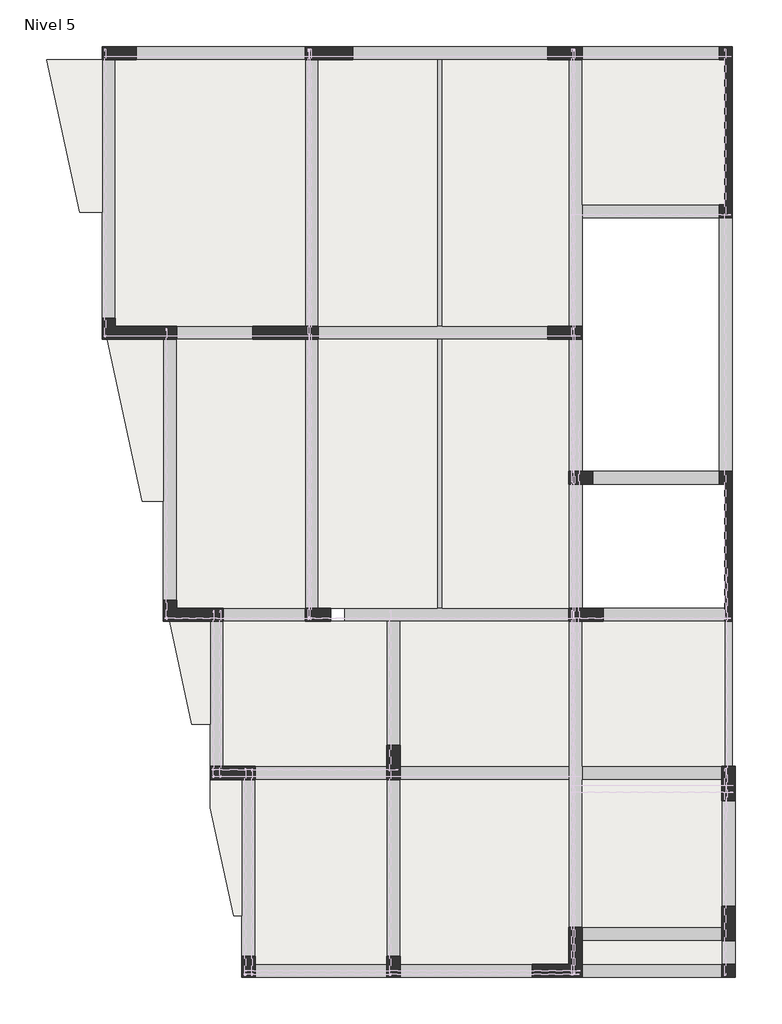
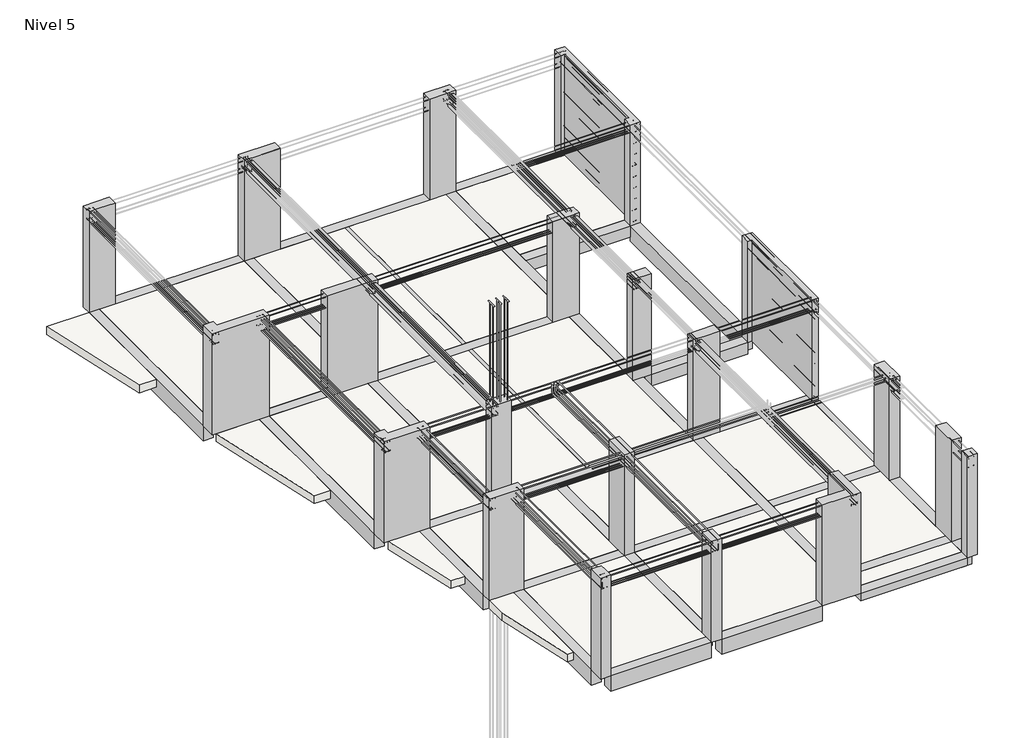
# One storey, part 1 of 4: 35 beams, 20 columns, 18 slabs.
"""IFC4 building model written with IfcOpenShell, lengths in millimetres."""

from ifc_helpers import new_model, si_unit, frame, origin, place, context, project, spatial, polyline, outline, extrude, faceted_brep, transform, mapped, element, save
from components import viga_rectangular_evg_rect_10x20cm_33a10ffb, viga_rectangular_evg_rect_10x20cm_1bd2aa7d, viga_rectangular_evg_rect_15x40_cm_c549a8b6, viga_rectangular_evg_rect_25x20_cm_6cef108b, viga_rectangular_evg_rect_25x20_cm_76eb4939, viga_rectangular_evg_rect_25x20_cm_9c3e1b78, viga_rectangular_evg_rect_25x30cm_620da6b6, viga_rectangular_evg_rect_25x30cm_a66d10a6, viga_rectangular_evg_rect_25x40_cm_2bdd148a, viga_rectangular_evg_rect_25x40_cm_41408228, viga_rectangular_evg_rect_25x40_cm_6a1f8600, viga_rectangular_evg_rect_25x40_cm_fbb3c78d, viga_rectangular_evg_rect_25x40_cm_da4bb42e, viga_rectangular_evg_rect_25x40_cm_90d5ee12, viga_rectangular_evg_rect_25x40_cm_d11aaed7, viga_rectangular_evg_rect_25x40_cm_ec8e30a6, viga_rectangular_evg_rect_25x40_cm_c621c72f, viga_rectangular_evg_rect_25x40_cm_b76ac871, viga_rectangular_evg_rect_25x40_cm_42ceb3dc, viga_rectangular_evg_rect_25x40_cm_400539a3, viga_rectangular_evg_rect_25x40_cm_b1d61e0d, viga_rectangular_evg_rect_25x40_cm_961303b6, viga_rectangular_evg_rect_25x40_cm_5bf8f6ca, viga_rectangular_evg_rect_25x40_cm_e96bc27a, viga_rectangular_evg_rect_25x40_cm_8e48b35e, viga_rectangular_evg_rect_25x40_cm_19945e5e, viga_rectangular_evg_rect_25x40_cm_a6a9dfc2, viga_rectangular_evg_rect_25x40_cm_1dd9ab3c, viga_rectangular_evg_rect_25x40_cm_08c52653, viga_rectangular_evg_rect_25x40_cm_b007f258, viga_rectangular_evg_rect_25x40_cm_85c841cc, column_d2b6d631, column_650a935f, column_6116fde4, column_4630523e, columna_estructural_rectangular_eco_rect_25x25_cm_e1e9a058, columna_estructural_u_eco_u_25x325x25x15_4ea3d3db

model = new_model("IFC4")

# Units and contexts
model_context = context("Model", 3, world=origin())
ifc_project = project(units=[si_unit("LENGTHUNIT", "METRE", prefix="MILLI")], contexts=[model_context])

# Site, building, storey
site = spatial("IfcSite", under=ifc_project)
building = spatial("IfcBuilding", under=site)
storey = spatial("IfcBuildingStorey", under=building, Name="Nivel 5", Elevation=10700.0)

# Beams
placement = place(None, origin())
viga_rectangular_evg_rect_10x20cm_shape = viga_rectangular_evg_rect_10x20cm_33a10ffb(model_context)
element("IfcBeam", 1, ObjectType="Viga Rectangular : EVG_Rect 10x20cm", at=placement, inside=storey, context=model_context, shape_type="MappedRepresentation", body=[
    mapped(viga_rectangular_evg_rect_10x20cm_shape, transform((3750.0, 9550.0, 10700.0), x_axis=(0.0, 1.0, 0.0), y_axis=(-1.0, 0.0, 0.0), z_axis=(0.0, 0.0, 1.0))),
])
viga_rectangular_evg_rect_10x20cm_2_shape = viga_rectangular_evg_rect_10x20cm_1bd2aa7d(model_context)
element("IfcBeam", 2, ObjectType="Viga Rectangular : EVG_Rect 10x20cm", at=placement, inside=storey, context=model_context, shape_type="MappedRepresentation", body=[
    mapped(viga_rectangular_evg_rect_10x20cm_2_shape, transform((3750.0, 14875.0, 10700.0), x_axis=(0.0, 1.0, 0.0), y_axis=(-1.0, 0.0, 0.0), z_axis=(0.0, 0.0, 1.0))),
])
viga_rectangular_evg_rect_15x40_cm_shape = viga_rectangular_evg_rect_15x40_cm_c549a8b6(model_context)
element("IfcBeam", 3, ObjectType="Viga Rectangular : EVG_Rect 15x40 cm", at=placement, inside=storey, context=model_context, shape_type="MappedRepresentation", body=[
    mapped(viga_rectangular_evg_rect_15x40_cm_shape, transform((9225.0, 5375.0, 10700.0), x_axis=(0.0, -1.0, 0.0), y_axis=(1.0, 0.0, 0.0), z_axis=(0.0, 0.0, 1.0))),
])
viga_rectangular_evg_rect_25x20_cm_shape = viga_rectangular_evg_rect_25x20_cm_6cef108b(model_context)
element("IfcBeam", 4, ObjectType="Viga Rectangular : EVG_Rect 25x20 cm", at=placement, inside=storey, context=model_context, shape_type="MappedRepresentation", body=[
    mapped(viga_rectangular_evg_rect_25x20_cm_shape, transform((6325.0, 8175.0, 10700.0), x_axis=(0.0, 1.0, 0.0), y_axis=(-1.0, 0.0, 0.0), z_axis=(0.0, 0.0, 1.0))),
])
viga_rectangular_evg_rect_25x20_cm_2_shape = viga_rectangular_evg_rect_25x20_cm_76eb4939(model_context)
element("IfcBeam", 5, ObjectType="Viga Rectangular : EVG_Rect 25x20 cm", at=placement, inside=storey, context=model_context, shape_type="MappedRepresentation", body=[
    mapped(viga_rectangular_evg_rect_25x20_cm_2_shape, transform((4600.0, 3875.0, 10700.0), x_axis=(1.0, 0.0, 0.0), y_axis=(0.0, 1.0, 0.0), z_axis=(0.0, 0.0, 1.0))),
])
viga_rectangular_evg_rect_25x20_cm_3_shape = viga_rectangular_evg_rect_25x20_cm_9c3e1b78(model_context)
element("IfcBeam", 6, ObjectType="Viga Rectangular : EVG_Rect 25x20 cm", at=placement, inside=storey, context=model_context, shape_type="MappedRepresentation", body=[
    mapped(viga_rectangular_evg_rect_25x20_cm_3_shape, transform((7775.0, 3875.0, 10700.0), x_axis=(1.0, 0.0, 0.0), y_axis=(0.0, 1.0, 0.0), z_axis=(0.0, 0.0, 1.0))),
])
element("IfcBeam", 7, ObjectType="Viga Rectangular : EVG_Rect 25x20 cm", at=placement, inside=storey, context=model_context, shape_type="MappedRepresentation", body=[
    mapped(viga_rectangular_evg_rect_25x20_cm_3_shape, transform((7775.0, 825.0, 10700.0), x_axis=(-1.0, 0.0, 0.0), y_axis=(0.0, -1.0, 0.0), z_axis=(0.0, 0.0, 1.0))),
])
element("IfcBeam", 8, ObjectType="Viga Rectangular : EVG_Rect 25x20 cm", at=placement, inside=storey, context=model_context, shape_type="MappedRepresentation", body=[
    mapped(viga_rectangular_evg_rect_25x20_cm_3_shape, transform((7775.0, 125.0, 10700.0), x_axis=(-1.0, 0.0, 0.0), y_axis=(0.0, -1.0, 0.0), z_axis=(0.0, 0.0, 1.0))),
])
viga_rectangular_evg_rect_25x30cm_shape = viga_rectangular_evg_rect_25x30cm_620da6b6(model_context)
element("IfcBeam", 9, ObjectType="Viga Rectangular : EVG_Rect 25x30cm", at=placement, inside=storey, context=model_context, shape_type="MappedRepresentation", body=[
    mapped(viga_rectangular_evg_rect_25x30cm_shape, transform((7800.0, 9475.0, 10700.0), x_axis=(1.0, 0.0, 0.0), y_axis=(0.0, 1.0, 0.0), z_axis=(0.0, 0.0, 1.0))),
])
viga_rectangular_evg_rect_25x30cm_2_shape = viga_rectangular_evg_rect_25x30cm_a66d10a6(model_context)
element("IfcBeam", 10, ObjectType="Viga Rectangular : EVG_Rect 25x30cm", at=placement, inside=storey, context=model_context, shape_type="MappedRepresentation", body=[
    mapped(viga_rectangular_evg_rect_25x30cm_2_shape, transform((7750.0, 14525.0, 10700.0), x_axis=(-1.0, 0.0, 0.0), y_axis=(0.0, -1.0, 0.0), z_axis=(0.0, 0.0, 1.0))),
])
viga_rectangular_evg_rect_25x40_cm_shape = viga_rectangular_evg_rect_25x40_cm_2bdd148a(model_context)
element("IfcBeam", 11, ObjectType="Viga Rectangular : EVG_Rect 25x40 cm", at=placement, inside=storey, context=model_context, shape_type="MappedRepresentation", body=[
    mapped(viga_rectangular_evg_rect_25x40_cm_shape, transform((6325.0, 3675.0, 10700.0), x_axis=(0.0, 1.0, 0.0), y_axis=(-1.0, 0.0, 0.0), z_axis=(0.0, 0.0, 1.0))),
])
viga_rectangular_evg_rect_25x40_cm_2_shape = viga_rectangular_evg_rect_25x40_cm_41408228(model_context)
element("IfcBeam", 12, ObjectType="Viga Rectangular : EVG_Rect 25x40 cm", at=placement, inside=storey, context=model_context, shape_type="MappedRepresentation", body=[
    mapped(viga_rectangular_evg_rect_25x40_cm_2_shape, transform((3425.0, 12225.0, 10700.0), x_axis=(-1.0, 0.0, 0.0), y_axis=(0.0, -1.0, 0.0), z_axis=(0.0, 0.0, 1.0))),
])
viga_rectangular_evg_rect_25x40_cm_3_shape = viga_rectangular_evg_rect_25x40_cm_6a1f8600(model_context)
element("IfcBeam", 13, ObjectType="Viga Rectangular : EVG_Rect 25x40 cm", at=placement, inside=storey, context=model_context, shape_type="MappedRepresentation", body=[
    mapped(viga_rectangular_evg_rect_25x40_cm_3_shape, transform((-560.0, 12225.0, 10700.0), x_axis=(1.0, 0.0, 0.0), y_axis=(0.0, 1.0, 0.0), z_axis=(0.0, 0.0, 1.0))),
])
viga_rectangular_evg_rect_25x40_cm_4_shape = viga_rectangular_evg_rect_25x40_cm_fbb3c78d(model_context)
element("IfcBeam", 14, ObjectType="Viga Rectangular : EVG_Rect 25x40 cm", at=placement, inside=storey, context=model_context, shape_type="MappedRepresentation", body=[
    mapped(viga_rectangular_evg_rect_25x40_cm_4_shape, transform((-337.5, 17525.0, 10700.0), x_axis=(1.0, 0.0, 0.0), y_axis=(0.0, 1.0, 0.0), z_axis=(0.0, 0.0, 1.0))),
])
viga_rectangular_evg_rect_25x40_cm_5_shape = viga_rectangular_evg_rect_25x40_cm_da4bb42e(model_context)
element("IfcBeam", 15, ObjectType="Viga Rectangular : EVG_Rect 25x40 cm", at=placement, inside=storey, context=model_context, shape_type="MappedRepresentation", body=[
    mapped(viga_rectangular_evg_rect_25x40_cm_5_shape, transform((3887.5, 17525.0, 10700.0), x_axis=(1.0, 0.0, 0.0), y_axis=(0.0, 1.0, 0.0), z_axis=(0.0, 0.0, 1.0))),
])
viga_rectangular_evg_rect_25x40_cm_6_shape = viga_rectangular_evg_rect_25x40_cm_90d5ee12(model_context)
element("IfcBeam", 16, ObjectType="Viga Rectangular : EVG_Rect 25x40 cm", at=placement, inside=storey, context=model_context, shape_type="MappedRepresentation", body=[
    mapped(viga_rectangular_evg_rect_25x40_cm_6_shape, transform((1350.0, 3875.0, 10700.0), x_axis=(1.0, 0.0, 0.0), y_axis=(0.0, 1.0, 0.0), z_axis=(0.0, 0.0, 1.0))),
])
viga_rectangular_evg_rect_25x40_cm_7_shape = viga_rectangular_evg_rect_25x40_cm_d11aaed7(model_context)
element("IfcBeam", 17, ObjectType="Viga Rectangular : EVG_Rect 25x40 cm", at=placement, inside=storey, context=model_context, shape_type="MappedRepresentation", body=[
    mapped(viga_rectangular_evg_rect_25x40_cm_7_shape, transform((1500.0, 125.0, 10700.0), x_axis=(-1.0, 0.0, 0.0), y_axis=(0.0, -1.0, 0.0), z_axis=(0.0, 0.0, 1.0))),
])
element("IfcBeam", 18, ObjectType="Viga Rectangular : EVG_Rect 25x40 cm", at=placement, inside=storey, context=model_context, shape_type="MappedRepresentation", body=[
    mapped(viga_rectangular_evg_rect_25x40_cm_7_shape, transform((6325.0, 10850.0, 10700.0), x_axis=(0.0, 1.0, 0.0), y_axis=(-1.0, 0.0, 0.0), z_axis=(0.0, 0.0, 1.0))),
])
viga_rectangular_evg_rect_25x40_cm_8_shape = viga_rectangular_evg_rect_25x40_cm_ec8e30a6(model_context)
element("IfcBeam", 19, ObjectType="Viga Rectangular : EVG_Rect 25x40 cm", at=placement, inside=storey, context=model_context, shape_type="MappedRepresentation", body=[
    mapped(viga_rectangular_evg_rect_25x40_cm_8_shape, transform((4600.0, 125.0, 10700.0), x_axis=(1.0, 0.0, 0.0), y_axis=(0.0, 1.0, 0.0), z_axis=(0.0, 0.0, 1.0))),
])
viga_rectangular_evg_rect_25x40_cm_9_shape = viga_rectangular_evg_rect_25x40_cm_c621c72f(model_context)
element("IfcBeam", 20, ObjectType="Viga Rectangular : EVG_Rect 25x40 cm", at=placement, inside=storey, context=model_context, shape_type="MappedRepresentation", body=[
    mapped(viga_rectangular_evg_rect_25x40_cm_9_shape, transform((125.0, 2037.5, 10700.0), x_axis=(0.0, 1.0, 0.0), y_axis=(-1.0, 0.0, 0.0), z_axis=(0.0, 0.0, 1.0))),
])
viga_rectangular_evg_rect_25x40_cm_10_shape = viga_rectangular_evg_rect_25x40_cm_b76ac871(model_context)
element("IfcBeam", 21, ObjectType="Viga Rectangular : EVG_Rect 25x40 cm", at=placement, inside=storey, context=model_context, shape_type="MappedRepresentation", body=[
    mapped(viga_rectangular_evg_rect_25x40_cm_10_shape, transform((2875.0, 2137.5, 10700.0), x_axis=(0.0, 1.0, 0.0), y_axis=(-1.0, 0.0, 0.0), z_axis=(0.0, 0.0, 1.0))),
])
viga_rectangular_evg_rect_25x40_cm_11_shape = viga_rectangular_evg_rect_25x40_cm_42ceb3dc(model_context)
element("IfcBeam", 22, ObjectType="Viga Rectangular : EVG_Rect 25x40 cm", at=placement, inside=storey, context=model_context, shape_type="MappedRepresentation", body=[
    mapped(viga_rectangular_evg_rect_25x40_cm_11_shape, transform((-475.0, 5375.0, 10700.0), x_axis=(0.0, 1.0, 0.0), y_axis=(-1.0, 0.0, 0.0), z_axis=(0.0, 0.0, 1.0))),
])
viga_rectangular_evg_rect_25x40_cm_12_shape = viga_rectangular_evg_rect_25x40_cm_400539a3(model_context)
element("IfcBeam", 23, ObjectType="Viga Rectangular : EVG_Rect 25x40 cm", at=placement, inside=storey, context=model_context, shape_type="MappedRepresentation", body=[
    mapped(viga_rectangular_evg_rect_25x40_cm_12_shape, transform((9225.0, 575.0, 10700.0), x_axis=(0.0, 1.0, 0.0), y_axis=(-1.0, 0.0, 0.0), z_axis=(0.0, 0.0, 1.0))),
])
viga_rectangular_evg_rect_25x40_cm_13_shape = viga_rectangular_evg_rect_25x40_cm_b1d61e0d(model_context)
element("IfcBeam", 24, ObjectType="Viga Rectangular : EVG_Rect 25x40 cm", at=placement, inside=storey, context=model_context, shape_type="MappedRepresentation", body=[
    mapped(viga_rectangular_evg_rect_25x40_cm_13_shape, transform((9225.0, 2350.0, 10700.0), x_axis=(0.0, 1.0, 0.0), y_axis=(-1.0, 0.0, 0.0), z_axis=(0.0, 0.0, 1.0))),
])
viga_rectangular_evg_rect_25x40_cm_14_shape = viga_rectangular_evg_rect_25x40_cm_961303b6(model_context)
element("IfcBeam", 25, ObjectType="Viga Rectangular : EVG_Rect 25x40 cm", at=placement, inside=storey, context=model_context, shape_type="MappedRepresentation", body=[
    mapped(viga_rectangular_evg_rect_25x40_cm_14_shape, transform((7875.0, 6875.0, 10700.0), x_axis=(1.0, 0.0, 0.0), y_axis=(0.0, 1.0, 0.0), z_axis=(0.0, 0.0, 1.0))),
])
viga_rectangular_evg_rect_25x40_cm_15_shape = viga_rectangular_evg_rect_25x40_cm_5bf8f6ca(model_context)
element("IfcBeam", 26, ObjectType="Viga Rectangular : EVG_Rect 25x40 cm", at=placement, inside=storey, context=model_context, shape_type="MappedRepresentation", body=[
    mapped(viga_rectangular_evg_rect_25x40_cm_15_shape, transform((-1365.0, 9587.5, 10700.0), x_axis=(0.0, 1.0, 0.0), y_axis=(-1.0, 0.0, 0.0), z_axis=(0.0, 0.0, 1.0))),
])
viga_rectangular_evg_rect_25x40_cm_16_shape = viga_rectangular_evg_rect_25x40_cm_e96bc27a(model_context)
element("IfcBeam", 27, ObjectType="Viga Rectangular : EVG_Rect 25x40 cm", at=placement, inside=storey, context=model_context, shape_type="MappedRepresentation", body=[
    mapped(viga_rectangular_evg_rect_25x40_cm_16_shape, transform((9175.0, 11985.0, 10700.0), x_axis=(0.0, 1.0, 0.0), y_axis=(-1.0, 0.0, 0.0), z_axis=(0.0, 0.0, 1.0))),
])
viga_rectangular_evg_rect_25x40_cm_17_shape = viga_rectangular_evg_rect_25x40_cm_8e48b35e(model_context)
element("IfcBeam", 28, ObjectType="Viga Rectangular : EVG_Rect 25x40 cm", at=placement, inside=storey, context=model_context, shape_type="MappedRepresentation", body=[
    mapped(viga_rectangular_evg_rect_25x40_cm_17_shape, transform((6325.0, 14875.0, 10700.0), x_axis=(0.0, 1.0, 0.0), y_axis=(-1.0, 0.0, 0.0), z_axis=(0.0, 0.0, 1.0))),
])
element("IfcBeam", 29, ObjectType="Viga Rectangular : EVG_Rect 25x40 cm", at=placement, inside=storey, context=model_context, shape_type="MappedRepresentation", body=[
    mapped(viga_rectangular_evg_rect_25x40_cm_17_shape, transform((1325.0, 14875.0, 10700.0), x_axis=(0.0, 1.0, 0.0), y_axis=(-1.0, 0.0, 0.0), z_axis=(0.0, 0.0, 1.0))),
])
viga_rectangular_evg_rect_25x40_cm_18_shape = viga_rectangular_evg_rect_25x40_cm_19945e5e(model_context)
element("IfcBeam", 30, ObjectType="Viga Rectangular : EVG_Rect 25x40 cm", at=placement, inside=storey, context=model_context, shape_type="MappedRepresentation", body=[
    mapped(viga_rectangular_evg_rect_25x40_cm_18_shape, transform((-2525.0, 14912.5, 10700.0), x_axis=(0.0, 1.0, 0.0), y_axis=(-1.0, 0.0, 0.0), z_axis=(0.0, 0.0, 1.0))),
])
viga_rectangular_evg_rect_25x40_cm_19_shape = viga_rectangular_evg_rect_25x40_cm_a6a9dfc2(model_context)
element("IfcBeam", 31, ObjectType="Viga Rectangular : EVG_Rect 25x40 cm", at=placement, inside=storey, context=model_context, shape_type="MappedRepresentation", body=[
    mapped(viga_rectangular_evg_rect_25x40_cm_19_shape, transform((327.5, 6875.0, 10700.0), x_axis=(1.0, 0.0, 0.0), y_axis=(0.0, 1.0, 0.0), z_axis=(0.0, 0.0, 1.0))),
])
viga_rectangular_evg_rect_25x40_cm_20_shape = viga_rectangular_evg_rect_25x40_cm_1dd9ab3c(model_context)
element("IfcBeam", 32, ObjectType="Viga Rectangular : EVG_Rect 25x40 cm", at=placement, inside=storey, context=model_context, shape_type="MappedRepresentation", body=[
    mapped(viga_rectangular_evg_rect_25x40_cm_20_shape, transform((4050.0, 6875.0, 10700.0), x_axis=(-1.0, 0.0, 0.0), y_axis=(0.0, -1.0, 0.0), z_axis=(0.0, 0.0, 1.0))),
])
viga_rectangular_evg_rect_25x40_cm_21_shape = viga_rectangular_evg_rect_25x40_cm_08c52653(model_context)
element("IfcBeam", 33, ObjectType="Viga Rectangular : EVG_Rect 25x40 cm", at=placement, inside=storey, context=model_context, shape_type="MappedRepresentation", body=[
    mapped(viga_rectangular_evg_rect_25x40_cm_21_shape, transform((2875.0, 5502.6028662, 10700.0), x_axis=(0.0, 1.0, 0.0), y_axis=(-1.0, 0.0, 0.0), z_axis=(0.0, 0.0, 1.0))),
])
viga_rectangular_evg_rect_25x40_cm_22_shape = viga_rectangular_evg_rect_25x40_cm_b007f258(model_context)
element("IfcBeam", 34, ObjectType="Viga Rectangular : EVG_Rect 25x40 cm", at=placement, inside=storey, context=model_context, shape_type="MappedRepresentation", body=[
    mapped(viga_rectangular_evg_rect_25x40_cm_22_shape, transform((1325.0, 9541.2430955, 10700.0), x_axis=(0.0, 1.0, 0.0), y_axis=(-1.0, 0.0, 0.0), z_axis=(0.0, 0.0, 1.0))),
])
viga_rectangular_evg_rect_25x40_cm_23_shape = viga_rectangular_evg_rect_25x40_cm_85c841cc(model_context)
element("IfcBeam", 35, ObjectType="Viga Rectangular : EVG_Rect 25x40 cm", at=placement, inside=storey, context=model_context, shape_type="MappedRepresentation", body=[
    mapped(viga_rectangular_evg_rect_25x40_cm_23_shape, transform((7675.0, 17525.0, 10700.0), x_axis=(1.0, 0.0, 0.0), y_axis=(0.0, 1.0, 0.0), z_axis=(0.0, 0.0, 1.0))),
])

# Columns
column_shape = column_d2b6d631(model_context)
element("IfcColumn", 36, ObjectType="Columna Estructural Ele : ECO_Ele 40x141x25", at=placement, inside=storey, context=model_context, shape_type="MappedRepresentation", body=[
    mapped(column_shape, transform((-2525.0, 12225.0, 0.0), x_axis=(1.0, 0.0, 0.0), y_axis=(0.0, 1.0, 0.0), z_axis=(0.0, 0.0, 1.0))),
])
column_2_shape = column_650a935f(model_context)
element("IfcColumn", 37, ObjectType="Columna Estructural Ele : ECO_Ele 40x114x25", at=placement, inside=storey, context=model_context, shape_type="MappedRepresentation", body=[
    mapped(column_2_shape, transform((-1365.0, 6875.0, 0.0), x_axis=(1.0, 0.0, 0.0), y_axis=(0.0, 1.0, 0.0), z_axis=(0.0, 0.0, 1.0))),
])
column_3_shape = column_6116fde4(model_context)
element("IfcColumn", 38, ObjectType="Columna Estructural Ele : ECO_Ele 25x285x25", at=placement, inside=storey, context=model_context, shape_type="MappedRepresentation", body=[
    mapped(column_3_shape, transform((9225.0, 9475.0, 0.0), x_axis=(0.0, -1.0, 0.0), y_axis=(1.0, 0.0, 0.0), z_axis=(0.0, 0.0, 1.0))),
])
column_4_shape = column_4630523e(model_context)
element("IfcColumn", 39, ObjectType="Columna Estructural Ele : ECO_Ele 95x95x25", at=placement, inside=storey, context=model_context, shape_type="MappedRepresentation", body=[
    mapped(column_4_shape, transform((6325.0, 125.0, 0.0), x_axis=(0.0, 1.0, 0.0), y_axis=(-1.0, 0.0, 0.0), z_axis=(0.0, 0.0, 1.0))),
])
element("IfcColumn", 40, ObjectType="Columna Estructural Rectangular : ECO_Rect. 25x125 cm", at=placement, inside=storey, context=model_context, shape_type="Brep", body=[
    faceted_brep([(200.0, 12350.0, 10700.0), (1450.0, 12350.0, 10700.0), (1450.0, 12100.0, 10700.0), (200.0, 12100.0, 10700.0), (200.0, 12350.0, 13350.0), (1200.0, 12350.0, 13350.0), (1450.0, 12350.0, 13350.0), (1450.0, 12100.0, 13350.0), (1200.0, 12100.0, 13350.0), (200.0, 12100.0, 13350.0)], [[[0, 1, 2, 3]], [[4, 5, 6, 1, 0]], [[6, 7, 2, 1]], [[7, 8, 9, 3, 2]], [[9, 4, 0, 3]], [[4, 9, 8, 7, 6, 5]]]),
])
columna_estructural_rectangular_eco_rect_25x25_cm_shape = columna_estructural_rectangular_eco_rect_25x25_cm_e1e9a058(model_context)
element("IfcColumn", 41, ObjectType="Columna Estructural Rectangular : ECO_Rect. 25x25 cm", at=placement, inside=storey, context=model_context, shape_type="MappedRepresentation", body=[
    mapped(columna_estructural_rectangular_eco_rect_25x25_cm_shape, transform((9225.0, 125.0, 0.0), x_axis=(-1.0, 0.0, 0.0), y_axis=(0.0, -1.0, 0.0), z_axis=(0.0, 0.0, 1.0))),
])
element("IfcColumn", 42, ObjectType="Columna Estructural Rectangular : ECO_Rect. 25x40 cm", at=placement, inside=storey, context=model_context, shape_type="Brep", body=[
    faceted_brep([(0.0, 0.0, 10700.0), (0.0, 400.0, 10700.0), (250.0, 400.0, 10700.0), (250.0, 0.0, 10700.0), (0.0, 0.0, 13350.0), (0.0, 400.0, 13350.0), (250.0, 400.0, 13350.0), (250.0, 250.0, 13350.0), (250.0, 0.0, 13350.0)], [[[0, 1, 2, 3]], [[4, 5, 1, 0]], [[5, 6, 2, 1]], [[6, 7, 8, 3, 2]], [[8, 4, 0, 3]], [[4, 8, 7, 6, 5]]]),
])
element("IfcColumn", 43, ObjectType="Columna Estructural Rectangular : ECO_Rect. 25x40 cm", at=placement, inside=storey, context=model_context, shape_type="Brep", body=[
    faceted_brep([(2750.0, 0.0, 10700.0), (2750.0, 400.0, 10700.0), (3000.0, 400.0, 10700.0), (3000.0, 0.0, 10700.0), (2750.0, 0.0, 13350.0), (2750.0, 250.0, 13350.0), (2750.0, 400.0, 13350.0), (3000.0, 400.0, 13350.0), (3000.0, 250.0, 13350.0), (3000.0, 0.0, 13350.0)], [[[0, 1, 2, 3]], [[4, 5, 6, 1, 0]], [[6, 7, 2, 1]], [[7, 8, 9, 3, 2]], [[9, 4, 0, 3]], [[4, 9, 8, 7, 6, 5]]]),
])
element("IfcColumn", 44, ObjectType="Columna Estructural Rectangular : ECO_Rect. 25x45 cm", at=placement, inside=storey, context=model_context, shape_type="SweptSolid", body=[
    extrude(outline(polyline([(6200.0, 9600.0), (6650.0, 9600.0), (6650.0, 9350.0), (6200.0, 9350.0), (6200.0, 9600.0)])), frame((0.0, 0.0, 10700.0), z_axis=(0.0, 0.0, 1.0), x_axis=(1.0, 0.0, 0.0)), (0.0, 0.0, 1.0), 2650.0),
])
element("IfcColumn", 45, ObjectType="Columna Estructural Rectangular : ECO_Rect. 25x48 cm", at=placement, inside=storey, context=model_context, shape_type="Brep", body=[
    faceted_brep([(1200.0, 7000.0, 10700.0), (1680.0, 7000.0, 10700.0), (1680.0, 6750.0, 10700.0), (1200.0, 6750.0, 10700.0), (1200.0, 7000.0, 13350.0), (1450.0, 7000.0, 13350.0), (1680.0, 7000.0, 13350.0), (1680.0, 6750.0, 13350.0), (1200.0, 6750.0, 13350.0)], [[[0, 1, 2, 3]], [[4, 5, 6, 1, 0]], [[6, 7, 2, 1]], [[7, 8, 3, 2]], [[8, 4, 0, 3]], [[4, 8, 7, 6, 5]]]),
])
element("IfcColumn", 46, ObjectType="Columna Estructural Rectangular : ECO_Rect. 25x65 cm", at=placement, inside=storey, context=model_context, shape_type="Brep", body=[
    faceted_brep([(-2650.0, 17650.0, 10700.0), (-2000.0, 17650.0, 10700.0), (-2000.0, 17400.0, 10700.0), (-2650.0, 17400.0, 10700.0), (-2650.0, 17650.0, 13350.0), (-2000.0, 17650.0, 13350.0), (-2650.0, 17650.0, 13150.0), (-2000.0, 17400.0, 13350.0), (-2400.0, 17400.0, 13350.0), (-2650.0, 17400.0, 13350.0)], [[[0, 1, 2, 3]], [[4, 5, 1, 0, 6]], [[5, 7, 2, 1]], [[7, 8, 9, 3, 2]], [[9, 4, 6, 0, 3]], [[4, 9, 8, 7, 5]]]),
])
element("IfcColumn", 47, ObjectType="Columna Estructural Rectangular : ECO_Rect. 25x65 cm", at=placement, inside=storey, context=model_context, shape_type="Brep", body=[
    faceted_brep([(5800.0, 17650.0, 10700.0), (6450.0, 17650.0, 10700.0), (6450.0, 17400.0, 10700.0), (5800.0, 17400.0, 10700.0), (5800.0, 17650.0, 13350.0), (6450.0, 17650.0, 13350.0), (6450.0, 17400.0, 13350.0), (6200.0, 17400.0, 13350.0), (5800.0, 17400.0, 13350.0)], [[[0, 1, 2, 3]], [[4, 5, 1, 0]], [[5, 6, 2, 1]], [[6, 7, 8, 3, 2]], [[8, 4, 0, 3]], [[4, 8, 7, 6, 5]]]),
])
element("IfcColumn", 48, ObjectType="Columna Estructural Rectangular : ECO_Rect. 25x65 cm", at=placement, inside=storey, context=model_context, shape_type="Brep", body=[
    faceted_brep([(5800.0, 12350.0, 10700.0), (6450.0, 12350.0, 10700.0), (6450.0, 12100.0, 10700.0), (5800.0, 12100.0, 10700.0), (5800.0, 12350.0, 13350.0), (6200.0, 12350.0, 13350.0), (6450.0, 12350.0, 13350.0), (6450.0, 12100.0, 13350.0), (6200.0, 12100.0, 13350.0), (5800.0, 12100.0, 13350.0)], [[[0, 1, 2, 3]], [[4, 5, 6, 1, 0]], [[6, 7, 2, 1]], [[7, 8, 9, 3, 2]], [[9, 4, 0, 3]], [[4, 9, 8, 7, 6, 5]]]),
])
element("IfcColumn", 49, ObjectType="Columna Estructural Rectangular : ECO_Rect. 25x65 cm", at=placement, inside=storey, context=model_context, shape_type="Brep", body=[
    faceted_brep([(6200.0, 7000.0, 10700.0), (6850.0, 7000.0, 10700.0), (6850.0, 6750.0, 10700.0), (6200.0, 6750.0, 10700.0), (6200.0, 7000.0, 13350.0), (6850.0, 7000.0, 13350.0), (6850.0, 6750.0, 13350.0), (6450.0, 6750.0, 13350.0), (6200.0, 6750.0, 13350.0)], [[[0, 1, 2, 3]], [[4, 5, 1, 0]], [[5, 6, 2, 1]], [[6, 7, 8, 3, 2]], [[8, 4, 0, 3]], [[4, 8, 7, 6, 5]]]),
])
element("IfcColumn", 50, ObjectType="Columna Estructural Rectangular : ECO_Rect. 25x65 cm", at=placement, inside=storey, context=model_context, shape_type="Brep", body=[
    faceted_brep([(2750.0, 3750.0, 10700.0), (2750.0, 4400.0, 10700.0), (3000.0, 4400.0, 10700.0), (3000.0, 3750.0, 10700.0), (2750.0, 3750.0, 13350.0), (2750.0, 4000.0, 13350.0), (2750.0, 4400.0, 13350.0), (3000.0, 4400.0, 13350.0), (3000.0, 4000.0, 13350.0), (3000.0, 3750.0, 13350.0)], [[[0, 1, 2, 3]], [[4, 5, 6, 1, 0]], [[6, 7, 2, 1]], [[7, 8, 9, 3, 2]], [[9, 4, 0, 3]], [[4, 9, 8, 7, 6, 5]]]),
])
element("IfcColumn", 51, ObjectType="Columna Estructural Rectangular : ECO_Rect. 25x65 cm", at=placement, inside=storey, context=model_context, shape_type="Brep", body=[
    faceted_brep([(9100.0, 3350.0, 10700.0), (9100.0, 4000.0, 10700.0), (9350.0, 4000.0, 10700.0), (9350.0, 3350.0, 10700.0), (9100.0, 3350.0, 13350.0), (9100.0, 3449.6610156, 13350.0), (9100.0, 4000.0, 13350.0), (9350.0, 4000.0, 13350.0), (9350.0, 3350.0, 13350.0)], [[[0, 1, 2, 3]], [[4, 5, 6, 1, 0]], [[6, 7, 2, 1]], [[7, 8, 3, 2]], [[8, 4, 0, 3]], [[4, 8, 7, 6, 5]]]),
])
element("IfcColumn", 52, ObjectType="Columna Estructural Rectangular : ECO_Rect. 25x65 cm", at=placement, inside=storey, context=model_context, shape_type="Brep", body=[
    faceted_brep([(9100.0, 700.0, 10700.0), (9100.0, 1350.0, 10700.0), (9350.0, 1350.0, 10700.0), (9350.0, 700.0, 10700.0), (9100.0, 700.0, 13350.0), (9100.0, 950.0, 13350.0), (9100.0, 1350.0, 13350.0), (9350.0, 1350.0, 13350.0), (9350.0, 700.0, 13350.0)], [[[0, 1, 2, 3]], [[4, 5, 6, 1, 0]], [[6, 7, 2, 1]], [[7, 8, 3, 2]], [[8, 4, 0, 3]], [[4, 8, 7, 6, 5]]]),
])
element("IfcColumn", 53, ObjectType="Columna Estructural Rectangular : ECO_Rect. 25x85 cm", at=placement, inside=storey, context=model_context, shape_type="Brep", body=[
    faceted_brep([(-600.0, 4000.0, 10700.0), (250.0, 4000.0, 10700.0), (250.0, 3750.0, 10700.0), (-600.0, 3750.0, 10700.0), (-600.0, 4000.0, 13350.0), (-350.0, 4000.0, 13350.0), (250.0, 4000.0, 13350.0), (250.0, 3750.0, 13350.0), (0.0, 3750.0, 13350.0), (-600.0, 3750.0, 13350.0)], [[[0, 1, 2, 3]], [[4, 5, 6, 1, 0]], [[6, 7, 2, 1]], [[7, 8, 9, 3, 2]], [[9, 4, 0, 3]], [[4, 9, 8, 7, 6, 5]]]),
])
element("IfcColumn", 54, ObjectType="Columna Estructural Rectangular : ECO_Rect. 25x90 cm", at=placement, inside=storey, context=model_context, shape_type="Brep", body=[
    faceted_brep([(1200.0, 17650.0, 10700.0), (2100.0, 17650.0, 10700.0), (2100.0, 17400.0, 10700.0), (1200.0, 17400.0, 10700.0), (1200.0, 17650.0, 13350.0), (2100.0, 17650.0, 13350.0), (2100.0, 17400.0, 13350.0), (1450.0, 17400.0, 13350.0), (1200.0, 17400.0, 13350.0)], [[[0, 1, 2, 3]], [[4, 5, 1, 0]], [[5, 6, 2, 1]], [[6, 7, 8, 3, 2]], [[8, 4, 0, 3]], [[4, 8, 7, 6, 5]]]),
])
columna_estructural_u_eco_u_25x325x25x15_shape = columna_estructural_u_eco_u_25x325x25x15_4ea3d3db(model_context)
element("IfcColumn", 55, ObjectType="Columna Estructural U : ECO_U 25x325x25x15", at=placement, inside=storey, context=model_context, shape_type="MappedRepresentation", body=[
    mapped(columna_estructural_u_eco_u_25x325x25x15_shape, transform((9225.0, 16025.0, 0.0), x_axis=(0.0, 1.0, 0.0), y_axis=(-1.0, 0.0, 0.0), z_axis=(0.0, 0.0, 1.0))),
])

# Slabs
element("IfcSlab", 56, ObjectType="ELA_Losa Aligerada e=20 cm", at=placement, inside=storey, context=model_context, shape_type="Brep", body=[
    faceted_brep([(1200.0, 17400.0, 10500.0), (1200.0, 12350.0, 10500.0), (-2400.0, 12350.0, 10500.0), (-2400.0, 17400.0, 10500.0), (1200.0, 17400.0, 10700.0), (-2000.0, 17400.0, 10700.0), (-2400.0, 17400.0, 10700.0), (-2400.0, 12350.0, 10700.0), (200.0, 12350.0, 10700.0), (1200.0, 12350.0, 10700.0)], [[[0, 1, 2, 3]], [[4, 5, 6, 7, 8, 9]], [[1, 0, 4, 9]], [[2, 1, 9, 8, 7]], [[3, 2, 7, 6]], [[0, 3, 6, 5, 4]]]),
])
element("IfcSlab", 57, ObjectType="ELA_Losa Aligerada e=20 cm", at=placement, inside=storey, context=model_context, shape_type="Brep", body=[
    faceted_brep([(3700.0, 17400.0, 10500.0), (3700.0, 12350.0, 10500.0), (1450.0, 12350.0, 10500.0), (1450.0, 17400.0, 10500.0), (3700.0, 17400.0, 10700.0), (2100.0, 17400.0, 10700.0), (1450.0, 17400.0, 10700.0), (1450.0, 12350.0, 10700.0), (3700.0, 12350.0, 10700.0)], [[[0, 1, 2, 3]], [[4, 5, 6, 7, 8]], [[1, 0, 4, 8]], [[2, 1, 8, 7]], [[3, 2, 7, 6]], [[0, 3, 6, 5, 4]]]),
])
element("IfcSlab", 58, ObjectType="ELA_Losa Aligerada e=20 cm", at=placement, inside=storey, context=model_context, shape_type="Brep", body=[
    faceted_brep([(6200.0, 17400.0, 10500.0), (6200.0, 12350.0, 10500.0), (3800.0, 12350.0, 10500.0), (3800.0, 17400.0, 10500.0), (6200.0, 17400.0, 10700.0), (5800.0, 17400.0, 10700.0), (3800.0, 17400.0, 10700.0), (3800.0, 12350.0, 10700.0), (5800.0, 12350.0, 10700.0), (6200.0, 12350.0, 10700.0)], [[[0, 1, 2, 3]], [[4, 5, 6, 7, 8, 9]], [[1, 0, 4, 9]], [[2, 1, 9, 8, 7]], [[3, 2, 7, 6]], [[0, 3, 6, 5, 4]]]),
])
element("IfcSlab", 59, ObjectType="ELA_Losa Aligerada e=20 cm", at=placement, inside=storey, context=model_context, shape_type="SweptSolid", body=[
    extrude(outline(polyline([(9150.0, 17400.0), (9150.0, 14650.0), (6450.0, 14650.0), (6450.0, 17400.0), (9150.0, 17400.0)])), frame((0.0, 0.0, 10500.0), z_axis=(0.0, 0.0, 1.0), x_axis=(1.0, 0.0, 0.0)), (0.0, 0.0, 1.0), 200.0),
])
element("IfcSlab", 60, ObjectType="ELA_Losa Aligerada e=20 cm", at=placement, inside=storey, context=model_context, shape_type="Brep", body=[
    faceted_brep([(1200.0, 12100.0, 10500.0), (1200.0, 7000.0, 10500.0), (-1240.0, 7000.0, 10500.0), (-1240.0, 12100.0, 10500.0), (1200.0, 12100.0, 10700.0), (200.0, 12100.0, 10700.0), (-1240.0, 12100.0, 10700.0), (-1240.0, 7000.0, 10700.0), (1200.0, 7000.0, 10700.0)], [[[0, 1, 2, 3]], [[4, 5, 6, 7, 8]], [[1, 0, 4, 8]], [[2, 1, 8, 7]], [[3, 2, 7, 6]], [[0, 3, 6, 5, 4]]]),
])
element("IfcSlab", 61, ObjectType="ELA_Losa Aligerada e=20 cm", at=placement, inside=storey, context=model_context, shape_type="Brep", body=[
    faceted_brep([(3700.0, 12100.0, 10500.0), (3700.0, 7000.0, 10500.0), (1450.0, 7000.0, 10500.0), (1450.0, 12100.0, 10500.0), (3700.0, 12100.0, 10700.0), (1450.0, 12100.0, 10700.0), (1450.0, 7000.0, 10700.0), (1950.0, 7000.0, 10700.0), (3700.0, 7000.0, 10700.0)], [[[0, 1, 2, 3]], [[4, 5, 6, 7, 8]], [[1, 0, 4, 8]], [[2, 1, 8, 7, 6]], [[3, 2, 6, 5]], [[0, 3, 5, 4]]]),
])
element("IfcSlab", 62, ObjectType="ELA_Losa Aligerada e=20 cm", at=placement, inside=storey, context=model_context, shape_type="Brep", body=[
    faceted_brep([(6200.0, 12100.0, 10500.0), (6200.0, 7000.0, 10500.0), (3800.0, 7000.0, 10500.0), (3800.0, 12100.0, 10500.0), (6200.0, 12100.0, 10700.0), (5800.0, 12100.0, 10700.0), (3800.0, 12100.0, 10700.0), (3800.0, 7000.0, 10700.0), (6200.0, 7000.0, 10700.0), (6200.0, 9350.0, 10700.0), (6200.0, 9600.0, 10700.0)], [[[0, 1, 2, 3]], [[4, 5, 6, 7, 8, 9, 10]], [[1, 0, 4, 10, 9, 8]], [[2, 1, 8, 7]], [[3, 2, 7, 6]], [[0, 3, 6, 5, 4]]]),
])
element("IfcSlab", 63, ObjectType="ELA_Losa Aligerada e=20 cm", at=placement, inside=storey, context=model_context, shape_type="Brep", body=[
    faceted_brep([(2750.0, 6750.0, 10500.0), (2750.0, 4000.0, 10500.0), (-350.0, 4000.0, 10500.0), (-350.0, 6750.0, 10500.0), (2750.0, 6750.0, 10700.0), (1950.0, 6750.0, 10700.0), (1200.0, 6750.0, 10700.0), (-350.0, 6750.0, 10700.0), (-350.0, 4000.0, 10700.0), (250.0, 4000.0, 10700.0), (2750.0, 4000.0, 10700.0), (2750.0, 4400.0, 10700.0)], [[[0, 1, 2, 3]], [[4, 5, 6, 7, 8, 9, 10, 11]], [[1, 0, 4, 11, 10]], [[2, 1, 10, 9, 8]], [[3, 2, 8, 7]], [[0, 3, 7, 6, 5, 4]]]),
])
element("IfcSlab", 64, ObjectType="ELA_Losa Aligerada e=20 cm", at=placement, inside=storey, context=model_context, shape_type="Brep", body=[
    faceted_brep([(6200.0, 6750.0, 10500.0), (6200.0, 4000.0, 10500.0), (3000.0, 4000.0, 10500.0), (3000.0, 6750.0, 10500.0), (6200.0, 6750.0, 10700.0), (3000.0, 6750.0, 10700.0), (3000.0, 4400.0, 10700.0), (3000.0, 4000.0, 10700.0), (6200.0, 4000.0, 10700.0)], [[[0, 1, 2, 3]], [[4, 5, 6, 7, 8]], [[1, 0, 4, 8]], [[2, 1, 8, 7]], [[3, 2, 7, 6, 5]], [[0, 3, 5, 4]]]),
])
element("IfcSlab", 65, ObjectType="ELA_Losa Aligerada e=20 cm", at=placement, inside=storey, context=model_context, shape_type="Brep", body=[
    faceted_brep([(9150.0, 6750.0, 10500.0), (9150.0, 4000.0, 10500.0), (6450.0, 4000.0, 10500.0), (6450.0, 6750.0, 10500.0), (9150.0, 6750.0, 10700.0), (6850.0, 6750.0, 10700.0), (6450.0, 6750.0, 10700.0), (6450.0, 4000.0, 10700.0), (9100.0, 4000.0, 10700.0), (9150.0, 4000.0, 10700.0)], [[[0, 1, 2, 3]], [[4, 5, 6, 7, 8, 9]], [[1, 0, 4, 9]], [[2, 1, 9, 8, 7]], [[3, 2, 7, 6]], [[0, 3, 6, 5, 4]]]),
])
element("IfcSlab", 66, ObjectType="ELA_Losa Aligerada e=20 cm", at=placement, inside=storey, context=model_context, shape_type="Brep", body=[
    faceted_brep([(2750.0, 3750.0, 10500.0), (2750.0, 250.0, 10500.0), (250.0, 250.0, 10500.0), (250.0, 3750.0, 10500.0), (2750.0, 3750.0, 10700.0), (250.0, 3750.0, 10700.0), (250.0, 400.0, 10700.0), (250.0, 250.0, 10700.0), (2750.0, 250.0, 10700.0), (2750.0, 400.0, 10700.0)], [[[0, 1, 2, 3]], [[4, 5, 6, 7, 8, 9]], [[1, 0, 4, 9, 8]], [[2, 1, 8, 7]], [[3, 2, 7, 6, 5]], [[0, 3, 5, 4]]]),
])
element("IfcSlab", 67, ObjectType="ELA_Losa Aligerada e=20 cm", at=placement, inside=storey, context=model_context, shape_type="Brep", body=[
    faceted_brep([(6200.0, 3750.0, 10500.0), (6200.0, 250.0, 10500.0), (3000.0, 250.0, 10500.0), (3000.0, 3750.0, 10500.0), (6200.0, 3750.0, 10700.0), (3000.0, 3750.0, 10700.0), (3000.0, 400.0, 10700.0), (3000.0, 250.0, 10700.0), (6200.0, 250.0, 10700.0)], [[[0, 1, 2, 3]], [[4, 5, 6, 7, 8]], [[1, 0, 4, 8]], [[2, 1, 8, 7]], [[3, 2, 7, 6, 5]], [[0, 3, 5, 4]]]),
])
element("IfcSlab", 68, ObjectType="ELA_Losa Aligerada e=20 cm", at=placement, inside=storey, context=model_context, shape_type="Brep", body=[
    faceted_brep([(9100.0, 3750.0, 10500.0), (9100.0, 950.0, 10500.0), (6450.0, 950.0, 10500.0), (6450.0, 3750.0, 10500.0), (9100.0, 3750.0, 10700.0), (6450.0, 3750.0, 10700.0), (6450.0, 950.0, 10700.0), (9100.0, 950.0, 10700.0), (9100.0, 1350.0, 10700.0), (9100.0, 3350.0, 10700.0)], [[[0, 1, 2, 3]], [[4, 5, 6, 7, 8, 9]], [[1, 0, 4, 9, 8, 7]], [[2, 1, 7, 6]], [[3, 2, 6, 5]], [[0, 3, 5, 4]]]),
])
element("IfcSlab", 69, ObjectType="ELA_Losa Aligerada e=20 cm", at=placement, inside=storey, context=model_context, shape_type="SweptSolid", body=[
    extrude(outline(polyline([(-1490.0, 12100.0), (-1490.0, 9025.720673), (-1893.5976251, 9025.720673), (-2558.5883252, 12100.0), (-1490.0, 12100.0)])), frame((0.0, 0.0, 10500.0), z_axis=(0.0, 0.0, 1.0), x_axis=(1.0, 0.0, 0.0)), (0.0, 0.0, 1.0), 200.0),
])
element("IfcSlab", 70, ObjectType="ELA_Losa Aligerada e=20 cm", at=placement, inside=storey, context=model_context, shape_type="SweptSolid", body=[
    extrude(outline(polyline([(-2650.0, 17400.0), (-2650.0, 14503.6972314), (-3078.5268652, 14503.6972314), (-3705.0198416, 17400.0), (-2650.0, 17400.0)])), frame((0.0, 0.0, 10500.0), z_axis=(0.0, 0.0, 1.0), x_axis=(1.0, 0.0, 0.0)), (0.0, 0.0, 1.0), 200.0),
])
element("IfcSlab", 71, ObjectType="ELA_Losa Aligerada e=20 cm", at=placement, inside=storey, context=model_context, shape_type="SweptSolid", body=[
    extrude(outline(polyline([(0.0, 1170.0), (-156.044349, 1170.0), (-600.0, 3217.7024215), (-600.0, 3750.0), (0.0, 3750.0), (0.0, 1170.0)])), frame((0.0, 0.0, 10500.0), z_axis=(0.0, 0.0, 1.0), x_axis=(1.0, 0.0, 0.0)), (0.0, 0.0, 1.0), 200.0),
])
element("IfcSlab", 72, ObjectType="ELA_Losa Aligerada e=20 cm", at=placement, inside=storey, context=model_context, shape_type="SweptSolid", body=[
    extrude(outline(polyline([(9100.0, 700.0), (9100.0, 250.0), (6450.0, 250.0), (6450.0, 700.0), (9100.0, 700.0)])), frame((0.0, 0.0, 10500.0), z_axis=(0.0, 0.0, 1.0), x_axis=(1.0, 0.0, 0.0)), (0.0, 0.0, 1.0), 200.0),
])
element("IfcSlab", 73, ObjectType="ELA_Losa Aligerada e=20 cm", at=placement, inside=storey, context=model_context, shape_type="SweptSolid", body=[
    extrude(outline(polyline([(-1373.6077071, 6750.0), (-600.0, 6750.0), (-600.0, 4800.7253635), (-951.964334, 4800.7253635), (-1373.6077071, 6750.0)])), frame((0.0, 0.0, 10500.0), z_axis=(0.0, 0.0, 1.0), x_axis=(1.0, 0.0, 0.0)), (0.0, 0.0, 1.0), 200.0),
])

save(model, "model.ifc")
